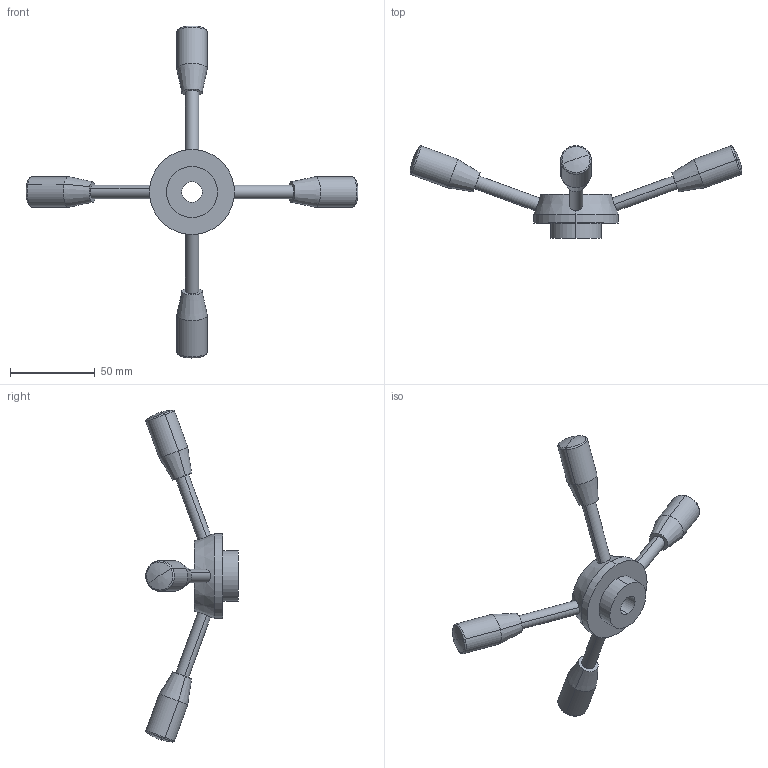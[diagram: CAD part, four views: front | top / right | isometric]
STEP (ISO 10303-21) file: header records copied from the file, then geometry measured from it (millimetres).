
FILE_DESCRIPTION (( 'STEP AP203' ), '1' );
FILE_NAME ('D13-05012.STEP', '2016-12-19T02:58:39', ( '' ), ( '' ), 'SwSTEP 2.0', 'SolidWorks 2013', '' );
FILE_SCHEMA (( 'CONFIG_CONTROL_DESIGN' ));
Length unit declared in the file: millimetre
Products named in the file (3): D13-05012; GN213本體; D01-06080
Assembly tree (5 placements, depth 2):
  D13-05012
    GN213本體
    D01-06080  x4
Bounding box: 195.45 x 54.43 x 195.45 mm (x, y, z)
Volume: 76322.2 mm3; surface area: 22604.1 mm2
Topology: 5 solids, 5 shells, 99 faces, 208 edges, 118 vertices
Faces by surface type: cylinder 46, plane 19, cone 18, bspline 8, torus 8
Entity records: 2071 total; most frequent: CARTESIAN_POINT 523, DIRECTION 274, ORIENTED_EDGE 216, AXIS2_PLACEMENT_3D 116, EDGE_CURVE 108, VERTEX_POINT 67, EDGE_LOOP 65, CIRCLE 56
